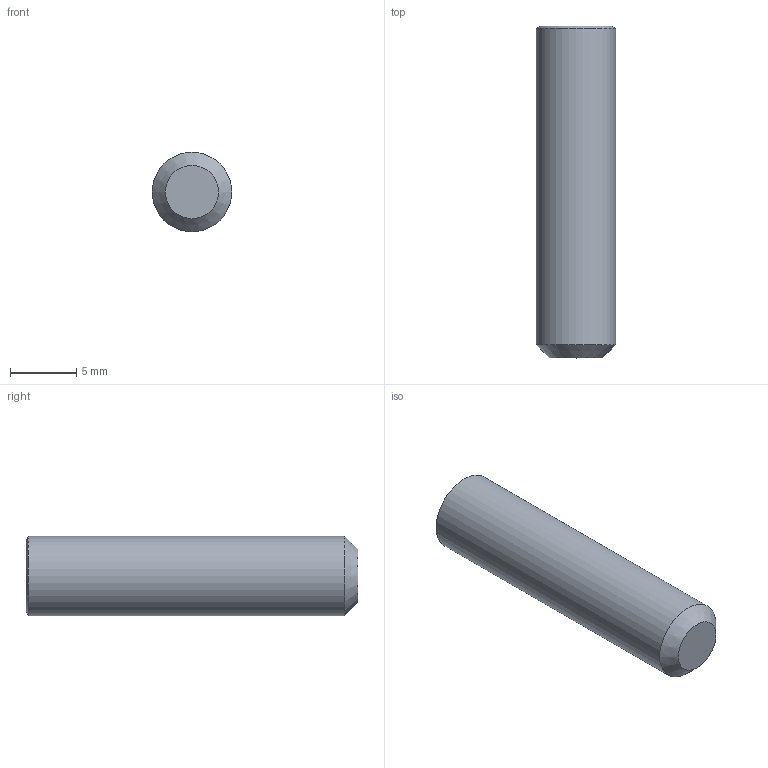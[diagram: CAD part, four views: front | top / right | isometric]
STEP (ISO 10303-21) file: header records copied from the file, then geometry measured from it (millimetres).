
FILE_DESCRIPTION(/* description */ (''),/* implementation_level */ '2;1');
FILE_NAME(/* name */ 'C:\Users\D\Documents\Inventor\各種小物\JIS\止めねじ\平先\M6\M6x25.stp',/* time_stamp */ '2022-06-23T14:26:08+09:00',/* author */ ('D'),/* organization */ (''),/* preprocessor_version */ 'ST-DEVELOPER v18',/* originating_system */ 'Autodesk Inventor 2020',/* authorisation */ '');
FILE_SCHEMA (('AUTOMOTIVE_DESIGN { 1 0 10303 214 3 1 1 }'));
Length unit declared in the file: millimetre
Products named in the file (1): M1.6x2
Bounding box: 6 x 25 x 6 mm (x, y, z)
Volume: 667.6 mm3; surface area: 551.4 mm2
Topology: 1 solids, 1 shells, 12 faces, 28 edges, 18 vertices
Faces by surface type: plane 8, cone 3, cylinder 1
Full cylindrical faces by diameter (mm): 6 x1
Entity records: 369 total; most frequent: CARTESIAN_POINT 72, ORIENTED_EDGE 54, DIRECTION 50, EDGE_CURVE 27, VERTEX_POINT 18, AXIS2_PLACEMENT_3D 17, LINE 16, VECTOR 16
